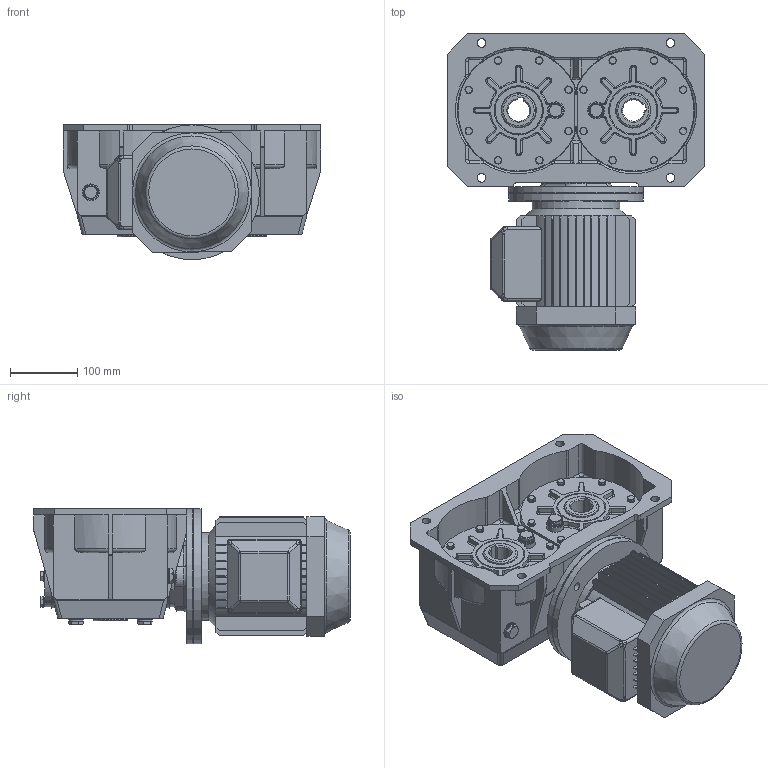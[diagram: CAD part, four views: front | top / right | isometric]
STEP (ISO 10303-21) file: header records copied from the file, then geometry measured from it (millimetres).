
FILE_DESCRIPTION((''),'2;1');
FILE_NAME('Y:\Archivi Inventor\Prog_07\int_170\figurini\MRV1702U per sito\MRV1702U_90s_B5.stp','2013-02-14T15:16:49',('tech3'),(''),'Autodesk Inventor 2013','Autodesk Inventor 2013','');
FILE_SCHEMA(('AUTOMOTIVE_DESIGN { 1 0 10303 214 1 1 1 1 }'));
Length unit declared in the file: millimetre
Products named in the file (18): fig_MRV170 2U 80 B5; fig_Carcassa MRV-2U 170; fig_0717002-A0; 0104029; fig_mozzo corona. MRV-RV40cusc_conici; 0104006; fig_0717009; 0104028; PARAOLIO 50x70x10; PARAOLIO 35x47x8; Guarnizione 3_8 GAS; Tappo3_8 GAS; AS 1237 (2.1) 6; AS 1237 (2.1) 8; UNI 5739 M6 x 20; UNI 5739 M8 x 20; motori B5 90S; UNI 5931 M 8 x  25
Assembly tree (72 placements, depth 2):
  fig_MRV170 2U 80 B5
    fig_Carcassa MRV-2U 170
    fig_0717002-A0  x2
    0104029  x2
    fig_mozzo corona. MRV-RV40cusc_conici  x2
    0104006
    fig_0717009
    0104028
    PARAOLIO 50x70x10  x4
    PARAOLIO 35x47x8
    Guarnizione 3_8 GAS  x6
    Tappo3_8 GAS  x6
    AS 1237 (2.1) 6  x16
    AS 1237 (2.1) 8  x4
    UNI 5739 M6 x 20  x16
    UNI 5739 M8 x 20  x4
    motori B5 90S
    UNI 5931 M 8 x  25  x4
Bounding box: 382 x 468.85 x 201 mm (x, y, z)
Volume: 11964393 mm3; surface area: 1287884.8 mm2
Topology: 72 solids, 74 shells, 1874 faces, 4348 edges, 2723 vertices
Faces by surface type: plane 899, cylinder 559, cone 199, torus 103, bspline 90, sphere 24
Full cylindrical faces by diameter (mm): 4.917 x16, 6 x16, 6.4 x16, 6.5 x32, 6.647 x8, 8 x8, 8.4 x4, 8.5 x12, 8.88 x16, 11 x20, 11.63 x4, 12 x4, 13 x8, 13.046 x6, 14 x4, 14.95 x6, 16.3 x6, 22 x12, 24 x1, 25 x4, 39.605 x1, 43.5 x1, 47 x2, 50 x2, 56.381 x4, 62 x5, 65 x4, 70 x8, 89.5 x1, 90 x1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
Entity records: 37720 total; most frequent: CARTESIAN_POINT 10372, DIRECTION 5712, ORIENTED_EDGE 5190, EDGE_CURVE 2595, AXIS2_PLACEMENT_3D 2165, VERTEX_POINT 1723, EDGE_LOOP 1450, VECTOR 1382
